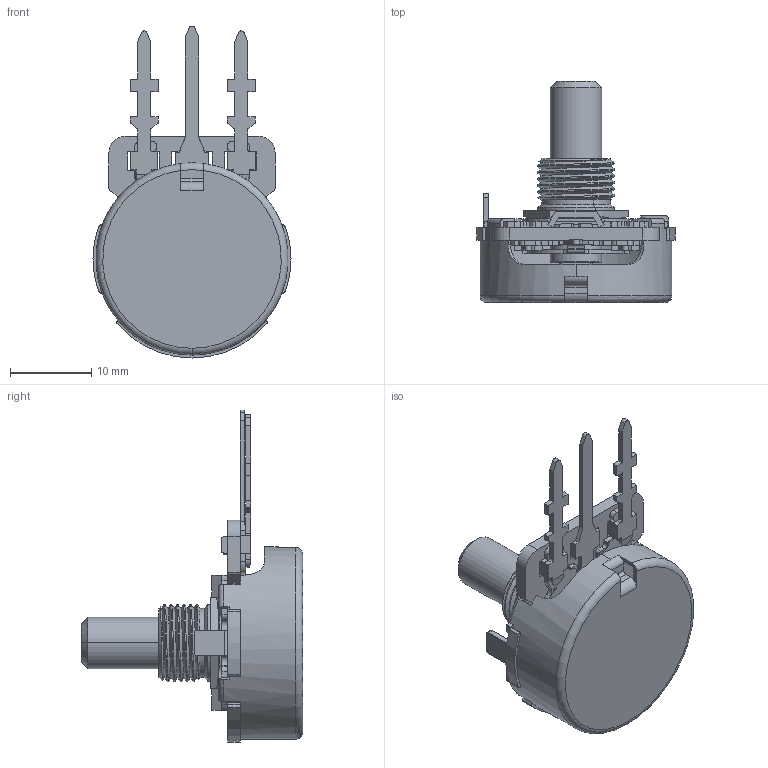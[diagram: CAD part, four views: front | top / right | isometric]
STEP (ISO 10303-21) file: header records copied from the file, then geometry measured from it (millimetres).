
FILE_DESCRIPTION (( 'STEP AP214' ), '1' );
FILE_NAME ('450Y220R103A1A1.STEP', '2019-05-27T01:14:11', ( '' ), ( '' ), 'SwSTEP 2.0', 'SolidWorks 2019', '' );
FILE_SCHEMA (( 'AUTOMOTIVE_DESIGN' ));
Length unit declared in the file: millimetre
Products named in the file (10): 45C-2T-Left lug; P45Q_Flat Bottom_45Q54 withFenderTradeMark_NewDetentSetting_07102012; 450 element; 450B-4; Y450AEDF-7; 450A-104G; 450Y220R103A1A1; 450F-6 for Y450AEDF-7; 4S59848; 450D-5 for Y450AEDF-7
Assembly tree (10 placements, depth 3):
  450Y220R103A1A1
    P45Q_Flat Bottom_45Q54 withFenderTradeMark_NewDetentSetting_07102012
    Y450AEDF-7
      450A-104G
      450 element
      450F-6 for Y450AEDF-7  x2
      450D-5 for Y450AEDF-7
    45C-2T-Left lug
    450B-4
    4S59848
Bounding box: 24.33 x 27.18 x 40.79 mm (x, y, z)
Volume: 2655.2 mm3; surface area: 6406.4 mm2
Topology: 9 solids, 9 shells, 646 faces, 1802 edges, 1175 vertices
Faces by surface type: plane 397, cylinder 206, cone 23, torus 18, bspline 2
Entity records: 20158 total; most frequent: CARTESIAN_POINT 4571, ORIENTED_EDGE 3240, DIRECTION 3158, EDGE_CURVE 1620, LINE 1058, VECTOR 1058, VERTEX_POINT 1058, AXIS2_PLACEMENT_3D 1050
